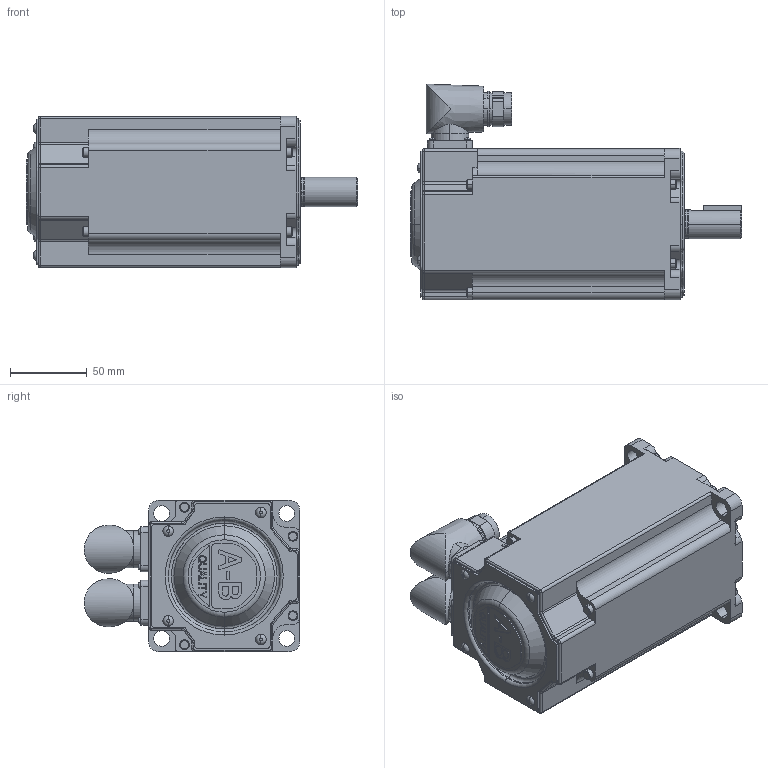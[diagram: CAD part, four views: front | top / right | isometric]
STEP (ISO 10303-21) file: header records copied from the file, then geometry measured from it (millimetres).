
FILE_DESCRIPTION (( 'STEP AP214' ), '1' );
FILE_NAME ('Rockwell Automation-MPM_Medium_Inertia_Motor-MPM-B1152T-xx72xx.STEP', '2012-04-11T20:02:16', ( 'sysAdmin' ), ( 'SolidWorks' ), 'SwSTEP 2.0', 'SolidWorks 2012', '' );
FILE_SCHEMA (( 'AUTOMOTIVE_DESIGN' ));
Length unit declared in the file: inch
Products named in the file (5): Rockwell Automation-MPM_Medium_Inertia_Motor-MPM-B1152T-xx72xx_MPM-xxxx-Power Connector-M23; Rockwell Automation-MPM_Medium_Inertia_Motor-MPM-B1152T-xx72xx_MPM-xxxx-Encoder Connector; Rockwell Automation-MPM_Medium_Inertia_Motor-MPM-B1152T-xx72xx_MPM-115x-Shaft_1152-shaft-key; Rockwell Automation-MPM_Medium_Inertia_Motor-MPM-B1152T-xx72xx_MPM-115x-Body_1152; Rockwell Automation-MPM_Medium_Inertia_Motor-MPM-B1152T-xx72xx
Assembly tree (4 placements, depth 2):
  Rockwell Automation-MPM_Medium_Inertia_Motor-MPM-B1152T-xx72xx
    Rockwell Automation-MPM_Medium_Inertia_Motor-MPM-B1152T-xx72xx_MPM-115x-Body_1152
    Rockwell Automation-MPM_Medium_Inertia_Motor-MPM-B1152T-xx72xx_MPM-115x-Shaft_1152-shaft-key
    Rockwell Automation-MPM_Medium_Inertia_Motor-MPM-B1152T-xx72xx_MPM-xxxx-Encoder Connector
    Rockwell Automation-MPM_Medium_Inertia_Motor-MPM-B1152T-xx72xx_MPM-xxxx-Power Connector-M23
Bounding box: 215.26 x 140.21 x 98.3 mm (x, y, z)
Volume: 752604.5 mm3; surface area: 199410.4 mm2
Topology: 5 solids, 5 shells, 1027 faces, 2524 edges, 1606 vertices
Faces by surface type: plane 413, cylinder 386, cone 100, torus 96, bspline 32
Entity records: 35449 total; most frequent: CARTESIAN_POINT 7530, DIRECTION 5488, ORIENTED_EDGE 5044, EDGE_CURVE 2522, AXIS2_PLACEMENT_3D 2072, VERTEX_POINT 1606, VECTOR 1344, LINE 1344
